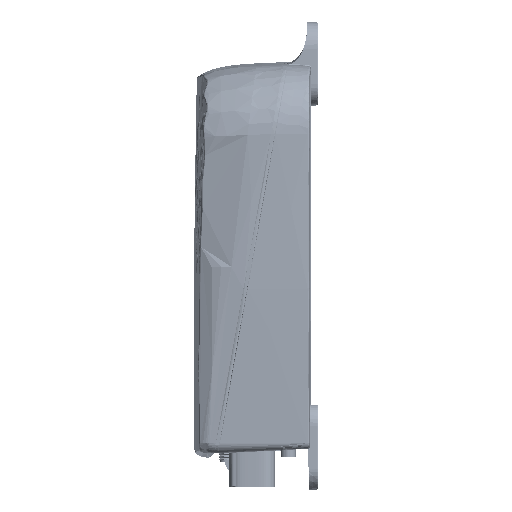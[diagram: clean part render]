
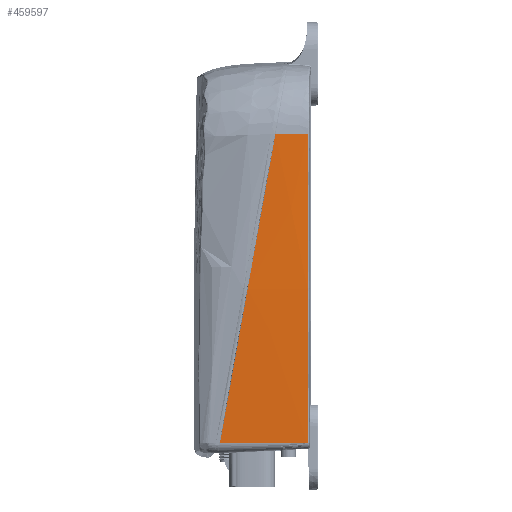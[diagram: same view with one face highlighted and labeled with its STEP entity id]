
A CAD part, left-side view. The second image highlights one B-rep face of the part: STEP entity #459597.
In plain terms, the highlighted free-form (B-spline) face has degree [3, 3] with [6, 4] control points.
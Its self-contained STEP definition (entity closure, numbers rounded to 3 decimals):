
#348661=CARTESIAN_POINT('',(-134.259,-10.112,
62.502));
#348662=CARTESIAN_POINT('',(-134.379,-10.112,
56.219));
#348663=CARTESIAN_POINT('',(-134.574,-10.112,
43.108));
#348664=CARTESIAN_POINT('',(-134.693,-10.112,
21.947));
#348665=CARTESIAN_POINT('',(-134.593,-10.112,
-1.129));
#348666=CARTESIAN_POINT('',(-134.204,-10.112,
-26.471));
#348667=CARTESIAN_POINT('',(-133.451,-10.112,
-53.914));
#348668=CARTESIAN_POINT('',(-132.678,-10.112,
-73.102));
#348669=CARTESIAN_POINT('',(-132.213,-10.112,
-82.962));
#348674=DIRECTION('',(0.052,-0.999,0.003));
#348675=VECTOR('',#348674,41.3);
#348676=CARTESIAN_POINT('',(-134.371,31.131,
-83.074));
#348677=LINE('',#348676,#348675);
#348681=CARTESIAN_POINT('',(-134.371,31.131,
-83.074));
#348682=CARTESIAN_POINT('',(-135.042,27.946,
-65.324));
#348683=CARTESIAN_POINT('',(-135.986,21.341,
-28.51));
#348684=CARTESIAN_POINT('',(-136.013,12.631,
20.029));
#348685=CARTESIAN_POINT('',(-135.385,7.11,
50.799));
#348686=CARTESIAN_POINT('',(-135.052,5.007,
62.517));
#348734=DIRECTION('',(-0.052,0.999,0.001));
#348735=VECTOR('',#348734,15.14);
#348736=CARTESIAN_POINT('',(-134.259,-10.112,
62.502));
#348737=LINE('',#348736,#348735);
#348741=CARTESIAN_POINT('',(-135.052,5.007,
62.517));
#354111=VERTEX_POINT('',#348741);
#354115=VERTEX_POINT('',#348681);
#354126=CARTESIAN_POINT('',(-134.259,-10.112,
62.502));
#354127=VERTEX_POINT('',#354126);
#354544=VERTEX_POINT('',#348669);
#459565=CARTESIAN_POINT('',(-135.053,5.569,
63.981));
#459566=CARTESIAN_POINT('',(-134.304,-8.726,
63.96));
#459567=CARTESIAN_POINT('',(-133.555,-23.022,
63.938));
#459568=CARTESIAN_POINT('',(-132.806,-37.318,
63.916));
#459569=CARTESIAN_POINT('',(-135.408,7.76,
51.775));
#459570=CARTESIAN_POINT('',(-134.659,-6.536,
51.758));
#459571=CARTESIAN_POINT('',(-133.91,-20.832,
51.74));
#459572=CARTESIAN_POINT('',(-133.161,-35.128,
51.722));
#459573=CARTESIAN_POINT('',(-136.057,13.368,
20.518));
#459574=CARTESIAN_POINT('',(-135.308,-0.928,
20.511));
#459575=CARTESIAN_POINT('',(-134.558,-15.224,
20.504));
#459576=CARTESIAN_POINT('',(-133.809,-29.52,
20.497));
#459577=CARTESIAN_POINT('',(-136.029,22.253,
-29.001));
#459578=CARTESIAN_POINT('',(-135.28,7.957,
-28.991));
#459579=CARTESIAN_POINT('',(-134.531,-6.338,
-28.981));
#459580=CARTESIAN_POINT('',(-133.782,-20.634,
-28.971));
#459581=CARTESIAN_POINT('',(-135.06,28.944,
-66.286));
#459582=CARTESIAN_POINT('',(-134.311,14.648,
-66.263));
#459583=CARTESIAN_POINT('',(-133.562,0.352,
-66.241));
#459584=CARTESIAN_POINT('',(-132.813,-13.944,
-66.218));
#459585=CARTESIAN_POINT('',(-134.359,32.215,
-84.521));
#459586=CARTESIAN_POINT('',(-133.61,17.92,
-84.492));
#459587=CARTESIAN_POINT('',(-132.862,3.624,
-84.463));
#459588=CARTESIAN_POINT('',(-132.113,-10.672,
-84.434));
#459589=B_SPLINE_SURFACE_WITH_KNOTS('',3,3,((#459565,#459566,#459567,#459568),(
#459569,#459570,#459571,#459572),(#459573,#459574,#459575,#459576),(#459577,
#459578,#459579,#459580),(#459581,#459582,#459583,#459584),(#459585,#459586,
#459587,#459588)),.UNSPECIFIED.,.F.,.F.,.F.,(4,1,1,4),(4,4),(0.12,
0.333,0.667,0.986),(-0.018,
0.921),.UNSPECIFIED.);
#459591=ORIENTED_EDGE('',*,*,#459590,.F.);
#459592=ORIENTED_EDGE('',*,*,#459425,.T.);
#459593=ORIENTED_EDGE('',*,*,#459560,.F.);
#459594=ORIENTED_EDGE('',*,*,#362734,.T.);
#459595=EDGE_LOOP('',(#459591,#459592,#459593,#459594));
#459596=FACE_OUTER_BOUND('',#459595,.F.);
#348670=B_SPLINE_CURVE_WITH_KNOTS('',3,(#348661,#348662,#348663,#348664,#348665,
#348666,#348667,#348668,#348669),.UNSPECIFIED.,.F.,.F.,(4,1,1,1,1,1,4),(0.,
0.167,0.333,0.5,0.667,0.833,
1.),.UNSPECIFIED.);
#348687=B_SPLINE_CURVE_WITH_KNOTS('',3,(#348681,#348682,#348683,#348684,#348685,
#348686),.UNSPECIFIED.,.F.,.F.,(4,1,1,4),(0.,0.366,
0.758,1.),.UNSPECIFIED.);
#362734=EDGE_CURVE('',#354115,#354111,#348687,.T.);
#459425=EDGE_CURVE('',#354127,#354544,#348670,.T.);
#459560=EDGE_CURVE('',#354115,#354544,#348677,.T.);
#459590=EDGE_CURVE('',#354127,#354111,#348737,.T.);
#459597=ADVANCED_FACE('',(#459596),#459589,.T.);
